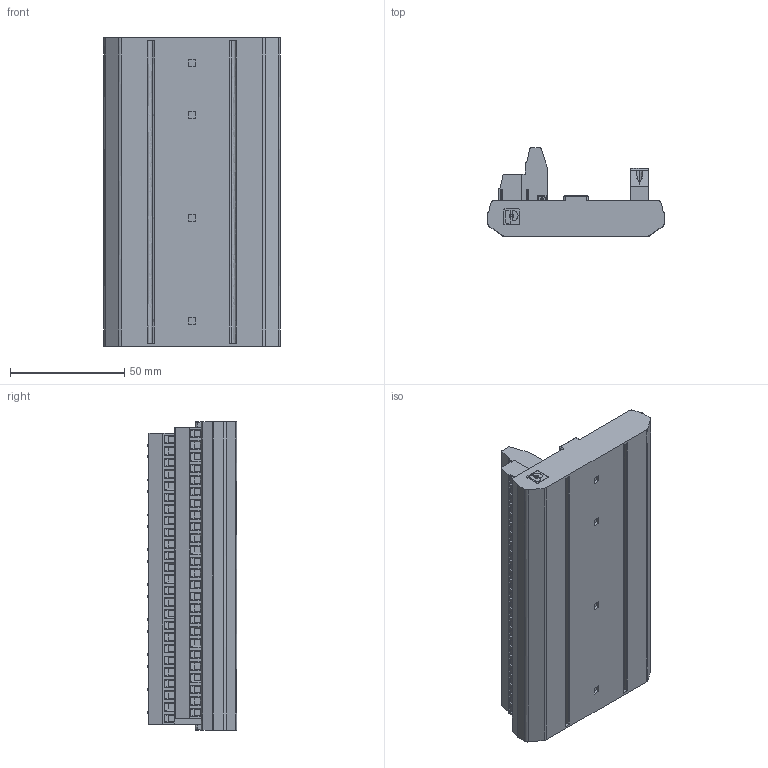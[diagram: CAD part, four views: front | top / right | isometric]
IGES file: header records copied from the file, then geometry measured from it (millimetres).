
Start section:  PTC IGES file: cu_cb50.igs
Global section: file name: cu_cb50.igs; native system: Pro/ENGINEER by Parametric Technology Corporation; preprocessor: 2006300; author: chrisj; organization: Unknown; date: 20080905.080629; units: inch
Bounding box: 77 x 39 x 134.9 mm (x, y, z)
Surface area: 45998.7 mm2 (no closed solid volume)
Topology: 0 solids, 0 shells, 1113 faces, 5990 edges, 5974 vertices
Faces by surface type: bspline 788, revolution 325
